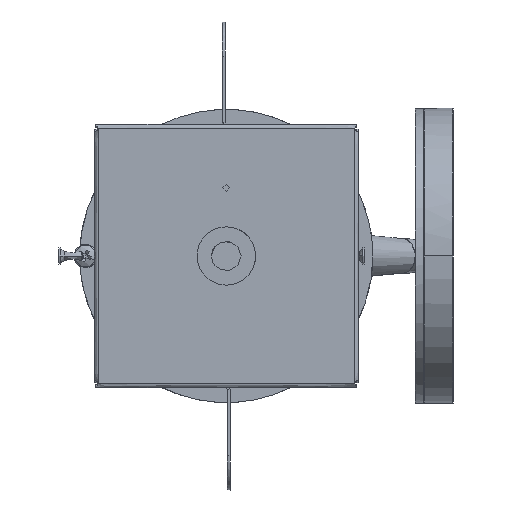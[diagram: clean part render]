
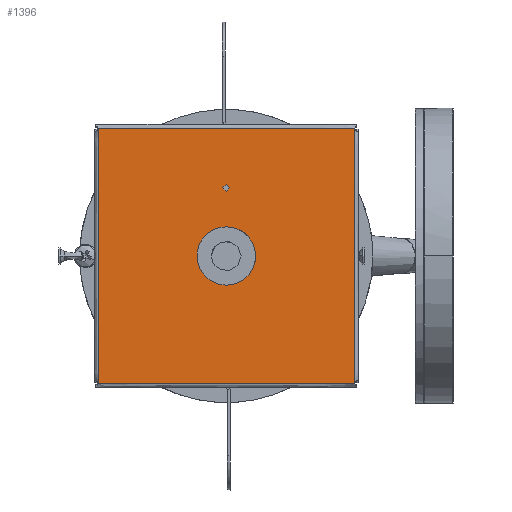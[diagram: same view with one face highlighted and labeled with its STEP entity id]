
A CAD part, left-side view. The second image highlights one B-rep face of the part: STEP entity #1396.
In plain terms, the highlighted planar face has unit normal (-1, 0, 0).
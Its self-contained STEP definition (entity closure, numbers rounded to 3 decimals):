
#288=FACE_BOUND('',#4087,.T.);
#289=FACE_BOUND('',#4088,.T.);
#1396=ADVANCED_FACE('',(#2705,#288,#289),#19961,.T.);
#2705=FACE_OUTER_BOUND('',#4086,.T.);
#4086=EDGE_LOOP('',(#9347,#9348,#9349,#9350,#9351,#9352,#9353,#9354));
#4087=EDGE_LOOP('',(#9355,#9356));
#4088=EDGE_LOOP('',(#9357,#9358));
#9347=ORIENTED_EDGE('',*,*,#13658,.F.);
#9348=ORIENTED_EDGE('',*,*,#13675,.F.);
#9349=ORIENTED_EDGE('',*,*,#13659,.F.);
#9350=ORIENTED_EDGE('',*,*,#13672,.F.);
#9351=ORIENTED_EDGE('',*,*,#13660,.F.);
#9352=ORIENTED_EDGE('',*,*,#13667,.F.);
#9353=ORIENTED_EDGE('',*,*,#13661,.F.);
#9354=ORIENTED_EDGE('',*,*,#13680,.F.);
#9355=ORIENTED_EDGE('',*,*,#13664,.T.);
#9356=ORIENTED_EDGE('',*,*,#13628,.T.);
#9357=ORIENTED_EDGE('',*,*,#13662,.F.);
#9358=ORIENTED_EDGE('',*,*,#13632,.T.);
#13628=EDGE_CURVE('',#19368,#19369,#17439,.T.);
#13632=EDGE_CURVE('',#19372,#19373,#17441,.T.);
#13658=EDGE_CURVE('',#19406,#19404,#15833,.T.);
#13659=EDGE_CURVE('',#19408,#19407,#15834,.T.);
#13660=EDGE_CURVE('',#19410,#19409,#15835,.T.);
#13661=EDGE_CURVE('',#19405,#19411,#15836,.T.);
#13662=EDGE_CURVE('',#19372,#19373,#17443,.T.);
#13664=EDGE_CURVE('',#19369,#19368,#17445,.T.);
#13667=EDGE_CURVE('',#19411,#19410,#17447,.T.);
#13672=EDGE_CURVE('',#19409,#19408,#17450,.T.);
#13675=EDGE_CURVE('',#19407,#19406,#17451,.T.);
#13680=EDGE_CURVE('',#19404,#19405,#17454,.T.);
#15833=B_SPLINE_CURVE_WITH_KNOTS('',1,(#60922,#60923),.UNSPECIFIED.,.F.,
 .F.,(2,2),(-85.728,0.),.UNSPECIFIED.);
#15834=B_SPLINE_CURVE_WITH_KNOTS('',1,(#60924,#60925),.UNSPECIFIED.,.F.,
 .F.,(2,2),(-87.092,0.),.UNSPECIFIED.);
#15835=B_SPLINE_CURVE_WITH_KNOTS('',1,(#60926,#60927),.UNSPECIFIED.,.F.,
 .F.,(2,2),(-85.728,0.),.UNSPECIFIED.);
#15836=B_SPLINE_CURVE_WITH_KNOTS('',1,(#60928,#60929),.UNSPECIFIED.,.F.,
 .F.,(2,2),(-87.092,0.),.UNSPECIFIED.);
#17439=(
BOUNDED_CURVE()
B_SPLINE_CURVE(2,(#60850,#60851,#60852,#60853,#60854),.UNSPECIFIED.,.F.,
 .F.)
B_SPLINE_CURVE_WITH_KNOTS((3,2,3),(-3.927,-1.963,
0.),.UNSPECIFIED.)
CURVE()
GEOMETRIC_REPRESENTATION_ITEM()
RATIONAL_B_SPLINE_CURVE((1.,0.707,1.,0.707,1.))
REPRESENTATION_ITEM('')
);
#17441=(
BOUNDED_CURVE()
B_SPLINE_CURVE(2,(#60864,#60865,#60866,#60867,#60868),.UNSPECIFIED.,.F.,
 .F.)
B_SPLINE_CURVE_WITH_KNOTS((3,2,3),(-31.416,-15.708,0.),
 .UNSPECIFIED.)
CURVE()
GEOMETRIC_REPRESENTATION_ITEM()
RATIONAL_B_SPLINE_CURVE((1.,0.707,1.,0.707,1.))
REPRESENTATION_ITEM('')
);
#17443=(
BOUNDED_CURVE()
B_SPLINE_CURVE(2,(#60930,#60931,#60932,#60933,#60934),.UNSPECIFIED.,.F.,
 .F.)
B_SPLINE_CURVE_WITH_KNOTS((3,2,3),(0.,15.708,31.416),
 .UNSPECIFIED.)
CURVE()
GEOMETRIC_REPRESENTATION_ITEM()
RATIONAL_B_SPLINE_CURVE((1.,0.707,1.,0.707,1.))
REPRESENTATION_ITEM('')
);
#17445=(
BOUNDED_CURVE()
B_SPLINE_CURVE(2,(#60940,#60941,#60942,#60943,#60944),.UNSPECIFIED.,.F.,
 .F.)
B_SPLINE_CURVE_WITH_KNOTS((3,2,3),(-3.927,-1.963,
0.),.UNSPECIFIED.)
CURVE()
GEOMETRIC_REPRESENTATION_ITEM()
RATIONAL_B_SPLINE_CURVE((1.,0.707,1.,0.707,1.))
REPRESENTATION_ITEM('')
);
#17447=(
BOUNDED_CURVE()
B_SPLINE_CURVE(2,(#60952,#60953,#60954),.UNSPECIFIED.,.F.,.F.)
B_SPLINE_CURVE_WITH_KNOTS((3,3),(0.,0.756),.UNSPECIFIED.)
CURVE()
GEOMETRIC_REPRESENTATION_ITEM()
RATIONAL_B_SPLINE_CURVE((1.,0.929,1.))
REPRESENTATION_ITEM('')
);
#17450=(
BOUNDED_CURVE()
B_SPLINE_CURVE(2,(#60969,#60970,#60971),.UNSPECIFIED.,.F.,.F.)
B_SPLINE_CURVE_WITH_KNOTS((3,3),(0.,0.756),.UNSPECIFIED.)
CURVE()
GEOMETRIC_REPRESENTATION_ITEM()
RATIONAL_B_SPLINE_CURVE((1.,0.929,1.))
REPRESENTATION_ITEM('')
);
#17451=(
BOUNDED_CURVE()
B_SPLINE_CURVE(2,(#60976,#60977,#60978),.UNSPECIFIED.,.F.,.F.)
B_SPLINE_CURVE_WITH_KNOTS((3,3),(0.,0.756),.UNSPECIFIED.)
CURVE()
GEOMETRIC_REPRESENTATION_ITEM()
RATIONAL_B_SPLINE_CURVE((1.,0.929,1.))
REPRESENTATION_ITEM('')
);
#17454=(
BOUNDED_CURVE()
B_SPLINE_CURVE(2,(#60993,#60994,#60995),.UNSPECIFIED.,.F.,.F.)
B_SPLINE_CURVE_WITH_KNOTS((3,3),(0.,0.756),.UNSPECIFIED.)
CURVE()
GEOMETRIC_REPRESENTATION_ITEM()
RATIONAL_B_SPLINE_CURVE((1.,0.929,1.))
REPRESENTATION_ITEM('')
);
#19368=VERTEX_POINT('',#59706);
#19369=VERTEX_POINT('',#59707);
#19372=VERTEX_POINT('',#59710);
#19373=VERTEX_POINT('',#59711);
#19404=VERTEX_POINT('',#59742);
#19405=VERTEX_POINT('',#59743);
#19406=VERTEX_POINT('',#59744);
#19407=VERTEX_POINT('',#59745);
#19408=VERTEX_POINT('',#59746);
#19409=VERTEX_POINT('',#59747);
#19410=VERTEX_POINT('',#59748);
#19411=VERTEX_POINT('',#59749);
#19961=PLANE('',#21175);
#21175=AXIS2_PLACEMENT_3D('',#54463,#21494,$);
#21494=DIRECTION('',(-1.,0.,0.));
#54463=CARTESIAN_POINT('',(371.3,-57.32,52.32));
#59706=CARTESIAN_POINT('',(371.3,-5.,24.55));
#59707=CARTESIAN_POINT('',(371.3,-5.,22.05));
#59710=CARTESIAN_POINT('',(371.3,-5.,10.));
#59711=CARTESIAN_POINT('',(371.3,-5.,-10.));
#59742=CARTESIAN_POINT('',(371.3,-48.6,-42.864));
#59743=CARTESIAN_POINT('',(371.3,-48.546,-43.6));
#59744=CARTESIAN_POINT('',(371.3,-48.6,42.864));
#59745=CARTESIAN_POINT('',(371.3,-48.546,43.6));
#59746=CARTESIAN_POINT('',(371.3,38.546,43.6));
#59747=CARTESIAN_POINT('',(371.3,38.6,42.864));
#59748=CARTESIAN_POINT('',(371.3,38.6,-42.864));
#59749=CARTESIAN_POINT('',(371.3,38.546,-43.6));
#60850=CARTESIAN_POINT('',(371.3,-5.,24.55));
#60851=CARTESIAN_POINT('',(371.3,-6.25,24.55));
#60852=CARTESIAN_POINT('',(371.3,-6.25,23.3));
#60853=CARTESIAN_POINT('',(371.3,-6.25,22.05));
#60854=CARTESIAN_POINT('',(371.3,-5.,22.05));
#60864=CARTESIAN_POINT('',(371.3,-5.,10.));
#60865=CARTESIAN_POINT('',(371.3,-15.,10.));
#60866=CARTESIAN_POINT('',(371.3,-15.,0.));
#60867=CARTESIAN_POINT('',(371.3,-15.,-10.));
#60868=CARTESIAN_POINT('',(371.3,-5.,-10.));
#60922=CARTESIAN_POINT('',(371.3,-48.6,42.864));
#60923=CARTESIAN_POINT('',(371.3,-48.6,-42.864));
#60924=CARTESIAN_POINT('',(371.3,38.546,43.6));
#60925=CARTESIAN_POINT('',(371.3,-48.546,43.6));
#60926=CARTESIAN_POINT('',(371.3,38.6,-42.864));
#60927=CARTESIAN_POINT('',(371.3,38.6,42.864));
#60928=CARTESIAN_POINT('',(371.3,-48.546,-43.6));
#60929=CARTESIAN_POINT('',(371.3,38.546,-43.6));
#60930=CARTESIAN_POINT('',(371.3,-5.,10.));
#60931=CARTESIAN_POINT('',(371.3,5.,10.));
#60932=CARTESIAN_POINT('',(371.3,5.,0.));
#60933=CARTESIAN_POINT('',(371.3,5.,-10.));
#60934=CARTESIAN_POINT('',(371.3,-5.,-10.));
#60940=CARTESIAN_POINT('',(371.3,-5.,22.05));
#60941=CARTESIAN_POINT('',(371.3,-3.75,22.05));
#60942=CARTESIAN_POINT('',(371.3,-3.75,23.3));
#60943=CARTESIAN_POINT('',(371.3,-3.75,24.55));
#60944=CARTESIAN_POINT('',(371.3,-5.,24.55));
#60952=CARTESIAN_POINT('',(371.3,38.546,-43.6));
#60953=CARTESIAN_POINT('',(371.3,38.427,-43.221));
#60954=CARTESIAN_POINT('',(371.3,38.6,-42.864));
#60969=CARTESIAN_POINT('',(371.3,38.6,42.864));
#60970=CARTESIAN_POINT('',(371.3,38.427,43.221));
#60971=CARTESIAN_POINT('',(371.3,38.546,43.6));
#60976=CARTESIAN_POINT('',(371.3,-48.546,43.6));
#60977=CARTESIAN_POINT('',(371.3,-48.427,43.221));
#60978=CARTESIAN_POINT('',(371.3,-48.6,42.864));
#60993=CARTESIAN_POINT('',(371.3,-48.6,-42.864));
#60994=CARTESIAN_POINT('',(371.3,-48.427,-43.221));
#60995=CARTESIAN_POINT('',(371.3,-48.546,-43.6));
